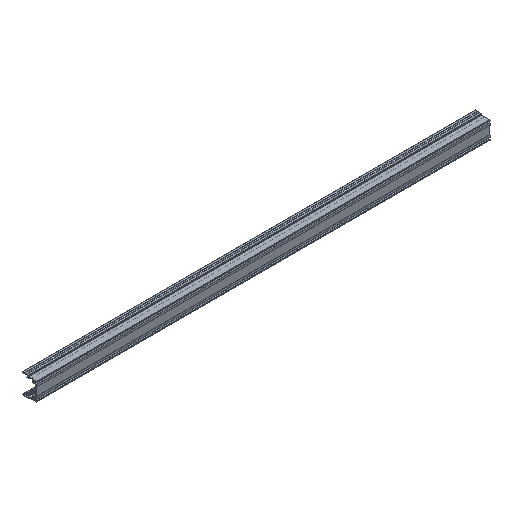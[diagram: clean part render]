
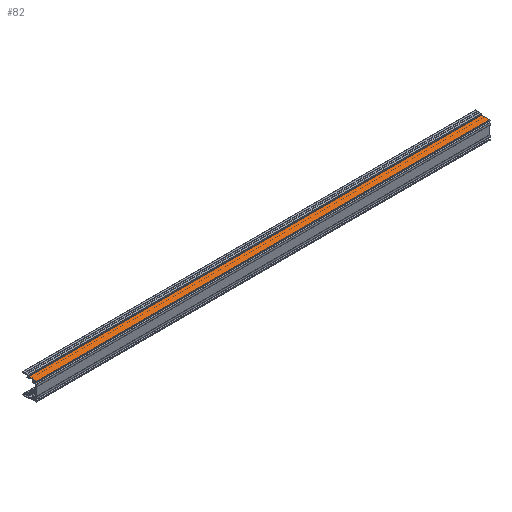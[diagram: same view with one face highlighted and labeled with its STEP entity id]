
A CAD part, isometric view. The second image highlights one B-rep face of the part: STEP entity #82.
In plain terms, the highlighted planar face has unit normal (0, 0, 1).
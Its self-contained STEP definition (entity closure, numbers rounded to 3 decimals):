
#82 = ADVANCED_FACE( '', ( #202 ), #203, .F. );
#202 = FACE_OUTER_BOUND( '', #426, .T. );
#203 = PLANE( '', #427 );
#426 = EDGE_LOOP( '', ( #791, #792, #793, #794 ) );
#427 = AXIS2_PLACEMENT_3D( '', #795, #796, #797 );
#791 = ORIENTED_EDGE( '', *, *, #1755, .T. );
#792 = ORIENTED_EDGE( '', *, *, #1756, .F. );
#793 = ORIENTED_EDGE( '', *, *, #1640, .F. );
#794 = ORIENTED_EDGE( '', *, *, #1754, .T. );
#795 = CARTESIAN_POINT( '', ( 810., 15.19, 16. ) );
#796 = DIRECTION( '', ( 0., 0., -1. ) );
#797 = DIRECTION( '', ( -1., 0., 0. ) );
#1640 = EDGE_CURVE( '', #1976, #1978, #1979, .T. );
#1754 = EDGE_CURVE( '', #1976, #2199, #2201, .T. );
#1755 = EDGE_CURVE( '', #2199, #2202, #2203, .T. );
#1756 = EDGE_CURVE( '', #1978, #2202, #2204, .T. );
#1976 = VERTEX_POINT( '', #2533 );
#1978 = VERTEX_POINT( '', #2536 );
#1979 = LINE( '', #2537, #2538 );
#2199 = VERTEX_POINT( '', #2827 );
#2201 = LINE( '', #2830, #2831 );
#2202 = VERTEX_POINT( '', #2832 );
#2203 = LINE( '', #2833, #2834 );
#2204 = LINE( '', #2835, #2836 );
#2533 = CARTESIAN_POINT( '', ( 810., 15.19, 16. ) );
#2536 = CARTESIAN_POINT( '', ( 810., 0.3, 16. ) );
#2537 = CARTESIAN_POINT( '', ( 810., 15.19, 16. ) );
#2538 = VECTOR( '', #3316, 1000. );
#2827 = CARTESIAN_POINT( '', ( 0., 15.19, 16. ) );
#2830 = CARTESIAN_POINT( '', ( 810., 15.19, 16. ) );
#2831 = VECTOR( '', #3516, 1000. );
#2832 = CARTESIAN_POINT( '', ( 0., 0.3, 16. ) );
#2833 = CARTESIAN_POINT( '', ( 0., 15.19, 16. ) );
#2834 = VECTOR( '', #3517, 1000. );
#2835 = CARTESIAN_POINT( '', ( 810., 0.3, 16. ) );
#2836 = VECTOR( '', #3518, 1000. );
#3316 = DIRECTION( '', ( 0., -1., 0. ) );
#3516 = DIRECTION( '', ( -1., 0., 0. ) );
#3517 = DIRECTION( '', ( 0., -1., 0. ) );
#3518 = DIRECTION( '', ( -1., 0., 0. ) );
